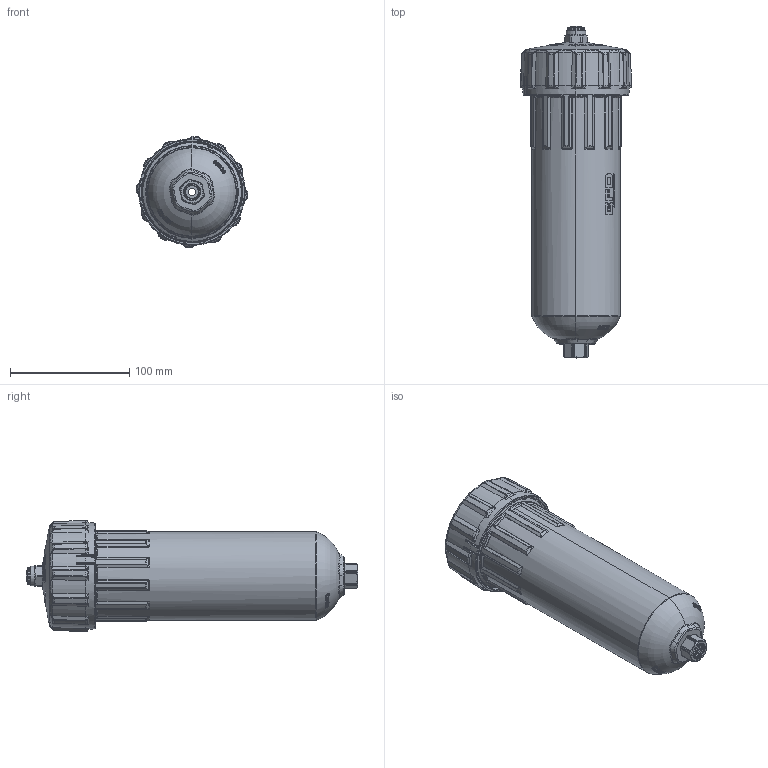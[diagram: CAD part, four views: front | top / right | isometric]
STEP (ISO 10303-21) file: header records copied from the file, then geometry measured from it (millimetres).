
FILE_DESCRIPTION(('FreeCAD Model'),'2;1');
FILE_NAME('C:/Users/martin.stroffek/Desktop/Retainer/7012440_NordsonEFD_RETAINER SYS O 20OZ_100PSI_3Dmodel/7012439_NordsonEFD_RETAINER SYS O 20OZ_3Dmodel.STEP','2019-10-30T11:20:38',('Author'),(''), 'Open CASCADE STEP processor 7.2','FreeCAD','Unknown');
FILE_SCHEMA(('AUTOMOTIVE_DESIGN { 1 0 10303 214 1 1 1 1 }'));
Products named in the file (3): NORDSONEFD-7012440_RETAINER_SYS_O_20OZ_CL_BL_100PSI_7BAR_7012532_
RETAINER_CAP_O_20_32OZ_BL; NORDSONEFD-7012440_RETAINER_SYS_O_20OZ_CL_BL_100PSI_7BAR_7013860_
RETAINER_BODY_O_20OZ_CL; NORDSONEFD-7012440_RETAINER_SYS_O_20OZ_CL_BL_100PSI_7BAR_7015195_
CARTRIDGE_O_20OZ_CL_IM
Bounding box: 93.22 x 278.59 x 93.22 mm (x, y, z)
Volume: 378239.7 mm3; surface area: 252375.3 mm2
Topology: 3 solids, 3 shells, 3264 faces, 8131 edges, 4890 vertices
Faces by surface type: bspline 1274, plane 800, cylinder 474, torus 347, cone 202, sphere 124, revolution 43
Entity records: 413211 total; most frequent: CARTESIAN_POINT 269240, DIRECTION 16888, ORIENTED_EDGE 16018, PCURVE 16018, DEFINITIONAL_REPRESENTATION 16018, B_SPLINE_CURVE_WITH_KNOTS 12930, LINE 8170, VECTOR 8170
